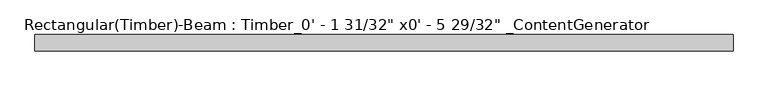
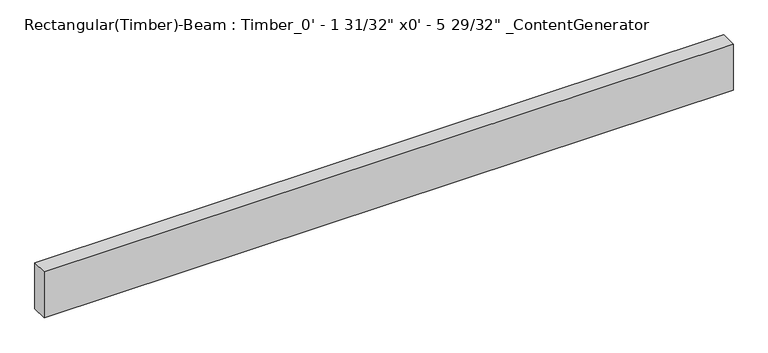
"""IFC4 building model written with IfcOpenShell, lengths in millimetres: beam geometry."""

from ifc_helpers import new_model, si_unit, frame, origin, place, context, project, spatial, polyline, outline, extrude, source, transform, mapped, element, save


def beam_f2c8ab0e(model_context):
    return source(origin(), model_context, "Body", "SweptSolid", [
        extrude(outline(polyline([(1063.625, 25.4), (1063.625, -25.4), (-1089.025, -25.4), (-1089.025, 25.4), (1063.625, 25.4)])), frame((0.0, 0.0, -76.2), z_axis=(0.0, 0.0, 1.0), x_axis=(1.0, 0.0, 0.0)), (0.0, 0.0, 1.0), 152.4),
    ])


if __name__ == "__main__":
    model = new_model("IFC4")
    model_context = context("Model", 3, world=origin())
    ifc_project = project(units=[si_unit("LENGTHUNIT", "METRE", prefix="MILLI")], contexts=[model_context])
    site = spatial("IfcSite", under=ifc_project)
    building = spatial("IfcBuilding", under=site)
    placement = place(None, origin())
    beam_shape = beam_f2c8ab0e(model_context)
    element("IfcBeam", 1, ObjectType="Rectangular(Timber)-Beam : Timber_0' - 1 31/32\" x0' - 5 29/32\" _ContentGenerator", at=placement, inside=building, context=model_context, shape_type="MappedRepresentation", body=[
        mapped(beam_shape, transform((0.0, 0.0, 0.0), x_axis=(1.0, 0.0, 0.0), y_axis=(0.0, 1.0, 0.0), z_axis=(0.0, 0.0, 1.0))),
    ])
    save(model, "model.ifc")
